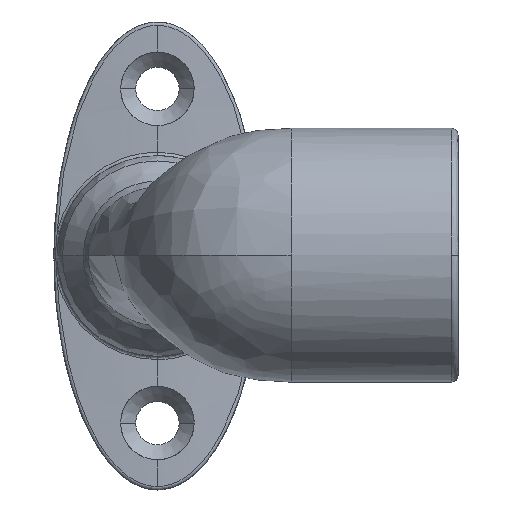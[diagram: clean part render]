
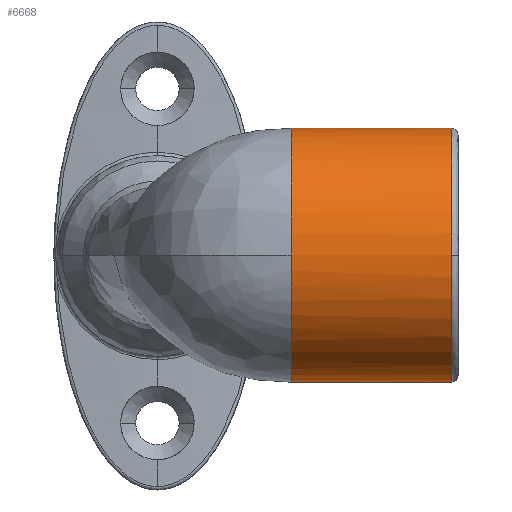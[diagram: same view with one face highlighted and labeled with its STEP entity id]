
A CAD part, top view. The second image highlights one B-rep face of the part: STEP entity #6668.
In plain terms, the highlighted cylindrical face has radius 19 mm (diameter 38 mm), a partial arc.
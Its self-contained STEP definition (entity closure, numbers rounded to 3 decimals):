
#206 = ORIENTED_EDGE ( 'NONE', *, *, #13982, .F. ) ;
#325 = CARTESIAN_POINT ( 'NONE',  ( 20., -9.522, 84.489 ) ) ;
#531 = VERTEX_POINT ( 'NONE', #8318 ) ;
#1194 = DIRECTION ( 'NONE',  ( 0., 1., 0. ) ) ;
#1404 = ORIENTED_EDGE ( 'NONE', *, *, #9043, .F. ) ;
#1512 = VERTEX_POINT ( 'NONE', #10103 ) ;
#1519 = CARTESIAN_POINT ( 'NONE',  ( 20., 15.107, 79.59 ) ) ;
#1629 = CYLINDRICAL_SURFACE ( 'NONE', #4107, 19. ) ;
#1676 = CARTESIAN_POINT ( 'NONE',  ( 44., 0., 68. ) ) ;
#1873 = EDGE_CURVE ( 'NONE', #6846, #12100, #13272, .T. ) ;
#2192 = CARTESIAN_POINT ( 'NONE',  ( 20., -19., 68. ) ) ;
#2451 = CARTESIAN_POINT ( 'NONE',  ( 20., -15.194, 79.676 ) ) ;
#2523 = AXIS2_PLACEMENT_3D ( 'NONE', #1676, #9183, #6918 ) ;
#2623 = CARTESIAN_POINT ( 'NONE',  ( 20., 17.078, 76.42 ) ) ;
#2680 = B_SPLINE_CURVE_WITH_KNOTS ( 'NONE', 3,
 ( #13499, #9246, #2744, #11224, #12363, #7995, #1519, #3847, #2623, #12319, #4929, #3662 ),
 .UNSPECIFIED., .F., .F.,
 ( 4, 2, 2, 2, 2, 4 ),
 ( 0., 0.22, 0.441, 0.551, 0.661, 0.882 ),
 .UNSPECIFIED. ) ;
#2744 = CARTESIAN_POINT ( 'NONE',  ( 20., 4.973, 86.505 ) ) ;
#3474 = DIRECTION ( 'NONE',  ( 1., 0., 0. ) ) ;
#3490 = CARTESIAN_POINT ( 'NONE',  ( 20., -11.59, 83.107 ) ) ;
#3513 = ORIENTED_EDGE ( 'NONE', *, *, #5442, .F. ) ;
#3532 = CARTESIAN_POINT ( 'NONE',  ( 20., -18.505, 72.973 ) ) ;
#3583 = CARTESIAN_POINT ( 'NONE',  ( 20., -19., 68. ) ) ;
#3662 = CARTESIAN_POINT ( 'NONE',  ( 20., 19., 68. ) ) ;
#3847 = CARTESIAN_POINT ( 'NONE',  ( 20., 16.489, 77.522 ) ) ;
#4107 = AXIS2_PLACEMENT_3D ( 'NONE', #9596, #6394, #7523 ) ;
#4482 = AXIS2_PLACEMENT_3D ( 'NONE', #13232, #7780, #1194 ) ;
#4693 = EDGE_CURVE ( 'NONE', #531, #6846, #11195, .T. ) ;
#4929 = CARTESIAN_POINT ( 'NONE',  ( 20., 19., 70.487 ) ) ;
#5442 = EDGE_CURVE ( 'NONE', #1512, #7165, #2680, .T. ) ;
#5733 = CARTESIAN_POINT ( 'NONE',  ( 20., -2.487, 87. ) ) ;
#6318 = B_SPLINE_CURVE_WITH_KNOTS ( 'NONE', 3,
 ( #3583, #12228, #3532, #13327, #2451, #10988, #3490, #325, #12136, #13237, #5733, #11119 ),
 .UNSPECIFIED., .F., .F.,
 ( 4, 2, 2, 2, 2, 4 ),
 ( 0.118, 0.339, 0.559, 0.669, 0.78, 1. ),
 .UNSPECIFIED. ) ;
#6335 = CARTESIAN_POINT ( 'NONE',  ( 44., 19., 68. ) ) ;
#6394 = DIRECTION ( 'NONE',  ( 1., 0., 0. ) ) ;
#6659 = ORIENTED_EDGE ( 'NONE', *, *, #7360, .T. ) ;
#6668 = ADVANCED_FACE ( 'NONE', ( #7219 ), #1629, .T. ) ;
#6763 = CARTESIAN_POINT ( 'NONE',  ( 44., 0., 87. ) ) ;
#6846 = VERTEX_POINT ( 'NONE', #7881 ) ;
#6918 = DIRECTION ( 'NONE',  ( 0., 1., 0. ) ) ;
#7165 = VERTEX_POINT ( 'NONE', #10751 ) ;
#7219 = FACE_OUTER_BOUND ( 'NONE', #8198, .T. ) ;
#7360 = EDGE_CURVE ( 'NONE', #12100, #10843, #9613, .T. ) ;
#7523 = DIRECTION ( 'NONE',  ( 0., 1., 0. ) ) ;
#7780 = DIRECTION ( 'NONE',  ( -1., 0., 0. ) ) ;
#7881 = CARTESIAN_POINT ( 'NONE',  ( 44., -19., 68. ) ) ;
#7995 = CARTESIAN_POINT ( 'NONE',  ( 20., 14.314, 80.556 ) ) ;
#8198 = EDGE_LOOP ( 'NONE', ( #1404, #8651, #12770, #6659, #206, #3513 ) ) ;
#8290 = VECTOR ( 'NONE', #3474, 1000. ) ;
#8318 = CARTESIAN_POINT ( 'NONE',  ( 20., -19., 68. ) ) ;
#8651 = ORIENTED_EDGE ( 'NONE', *, *, #4693, .T. ) ;
#9043 = EDGE_CURVE ( 'NONE', #531, #1512, #6318, .T. ) ;
#9183 = DIRECTION ( 'NONE',  ( -1., 0., 0. ) ) ;
#9246 = CARTESIAN_POINT ( 'NONE',  ( 20., 2.487, 87. ) ) ;
#9593 = DIRECTION ( 'NONE',  ( 1., 0., 0. ) ) ;
#9596 = CARTESIAN_POINT ( 'NONE',  ( 20., 0., 68. ) ) ;
#9613 = CIRCLE ( 'NONE', #4482, 19. ) ;
#10103 = CARTESIAN_POINT ( 'NONE',  ( 20., 0., 87. ) ) ;
#10751 = CARTESIAN_POINT ( 'NONE',  ( 20., 19., 68. ) ) ;
#10796 = VECTOR ( 'NONE', #9593, 1000. ) ;
#10843 = VERTEX_POINT ( 'NONE', #6335 ) ;
#10988 = CARTESIAN_POINT ( 'NONE',  ( 20., -12.556, 82.314 ) ) ;
#11119 = CARTESIAN_POINT ( 'NONE',  ( 20., 0., 87. ) ) ;
#11195 = LINE ( 'NONE', #2192, #8290 ) ;
#11224 = CARTESIAN_POINT ( 'NONE',  ( 20., 9.569, 84.602 ) ) ;
#11693 = CARTESIAN_POINT ( 'NONE',  ( 20., 19., 68. ) ) ;
#12100 = VERTEX_POINT ( 'NONE', #6763 ) ;
#12136 = CARTESIAN_POINT ( 'NONE',  ( 20., -8.42, 85.078 ) ) ;
#12228 = CARTESIAN_POINT ( 'NONE',  ( 20., -19., 70.487 ) ) ;
#12319 = CARTESIAN_POINT ( 'NONE',  ( 20., 18.505, 72.973 ) ) ;
#12363 = CARTESIAN_POINT ( 'NONE',  ( 20., 11.676, 83.194 ) ) ;
#12770 = ORIENTED_EDGE ( 'NONE', *, *, #1873, .T. ) ;
#13232 = CARTESIAN_POINT ( 'NONE',  ( 44., 0., 68. ) ) ;
#13237 = CARTESIAN_POINT ( 'NONE',  ( 20., -4.973, 86.505 ) ) ;
#13272 = CIRCLE ( 'NONE', #2523, 19. ) ;
#13327 = CARTESIAN_POINT ( 'NONE',  ( 20., -16.602, 77.569 ) ) ;
#13499 = CARTESIAN_POINT ( 'NONE',  ( 20., 0., 87. ) ) ;
#13982 = EDGE_CURVE ( 'NONE', #7165, #10843, #14024, .T. ) ;
#14024 = LINE ( 'NONE', #11693, #10796 ) ;
